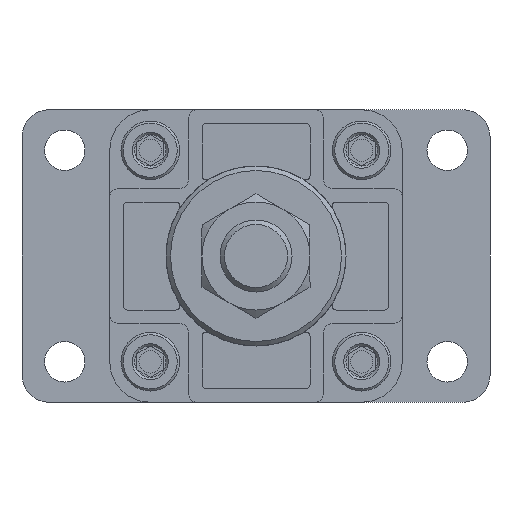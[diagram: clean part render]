
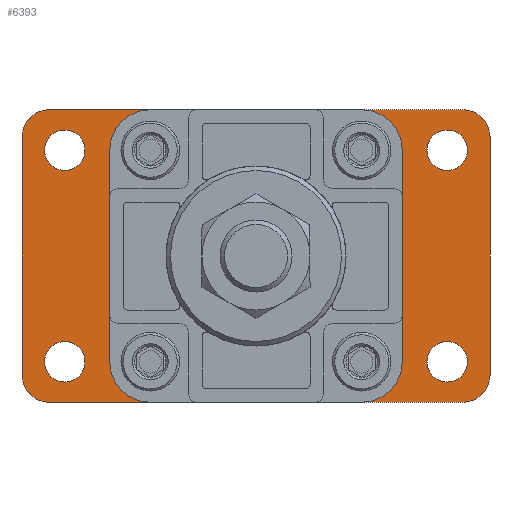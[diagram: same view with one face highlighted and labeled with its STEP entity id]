
A CAD part, front view. The second image highlights one B-rep face of the part: STEP entity #6393.
In plain terms, the highlighted planar face has unit normal (0, -1, 0) as drawn and (0, 1, 0) by its records, which use the part's own axes.
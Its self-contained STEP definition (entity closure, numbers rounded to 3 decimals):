
#388=LINE('',#9569,#730);
#392=LINE('',#9578,#734);
#396=LINE('',#9587,#738);
#398=LINE('',#9591,#740);
#730=VECTOR('',#8149,1000.);
#734=VECTOR('',#8155,1000.);
#738=VECTOR('',#8161,1000.);
#740=VECTOR('',#8165,1000.);
#1928=ORIENTED_EDGE('',*,*,#2713,.F.);
#1929=ORIENTED_EDGE('',*,*,#2714,.T.);
#1930=ORIENTED_EDGE('',*,*,#2715,.T.);
#1931=ORIENTED_EDGE('',*,*,#2716,.T.);
#1932=ORIENTED_EDGE('',*,*,#2717,.T.);
#1933=ORIENTED_EDGE('',*,*,#2718,.F.);
#1934=ORIENTED_EDGE('',*,*,#2719,.F.);
#1935=ORIENTED_EDGE('',*,*,#2720,.F.);
#1936=ORIENTED_EDGE('',*,*,#2721,.F.);
#1937=ORIENTED_EDGE('',*,*,#2686,.F.);
#1938=ORIENTED_EDGE('',*,*,#2722,.T.);
#1939=ORIENTED_EDGE('',*,*,#2696,.F.);
#1940=ORIENTED_EDGE('',*,*,#2723,.T.);
#1941=ORIENTED_EDGE('',*,*,#2694,.F.);
#1942=ORIENTED_EDGE('',*,*,#2724,.T.);
#1943=ORIENTED_EDGE('',*,*,#2690,.F.);
#1944=ORIENTED_EDGE('',*,*,#2725,.T.);
#2686=EDGE_CURVE('',#3177,#3178,#388,.T.);
#2690=EDGE_CURVE('',#3181,#3182,#392,.T.);
#2694=EDGE_CURVE('',#3185,#3186,#396,.T.);
#2696=EDGE_CURVE('',#3187,#3188,#398,.T.);
#2713=EDGE_CURVE('',#3200,#3200,#3497,.F.);
#2714=EDGE_CURVE('',#3201,#3201,#3498,.T.);
#2715=EDGE_CURVE('',#3202,#3202,#3499,.T.);
#2716=EDGE_CURVE('',#3203,#3203,#3500,.T.);
#2717=EDGE_CURVE('',#3204,#3204,#3501,.T.);
#2718=EDGE_CURVE('',#3205,#3205,#3502,.F.);
#2719=EDGE_CURVE('',#3206,#3206,#3503,.F.);
#2720=EDGE_CURVE('',#3207,#3207,#3504,.F.);
#2721=EDGE_CURVE('',#3208,#3208,#3505,.F.);
#2722=EDGE_CURVE('',#3177,#3188,#3506,.F.);
#2723=EDGE_CURVE('',#3187,#3186,#3507,.F.);
#2724=EDGE_CURVE('',#3185,#3182,#3508,.F.);
#2725=EDGE_CURVE('',#3181,#3178,#3509,.F.);
#3177=VERTEX_POINT('',#9568);
#3178=VERTEX_POINT('',#9570);
#3181=VERTEX_POINT('',#9577);
#3182=VERTEX_POINT('',#9579);
#3185=VERTEX_POINT('',#9586);
#3186=VERTEX_POINT('',#9588);
#3187=VERTEX_POINT('',#9592);
#3188=VERTEX_POINT('',#9593);
#3200=VERTEX_POINT('',#9624);
#3201=VERTEX_POINT('',#9626);
#3202=VERTEX_POINT('',#9628);
#3203=VERTEX_POINT('',#9630);
#3204=VERTEX_POINT('',#9632);
#3205=VERTEX_POINT('',#9634);
#3206=VERTEX_POINT('',#9636);
#3207=VERTEX_POINT('',#9638);
#3208=VERTEX_POINT('',#9640);
#3497=CIRCLE('',#6921,21.);
#3498=CIRCLE('',#6922,3.5);
#3499=CIRCLE('',#6923,3.5);
#3500=CIRCLE('',#6924,3.5);
#3501=CIRCLE('',#6925,3.5);
#3502=CIRCLE('',#6926,4.5);
#3503=CIRCLE('',#6927,4.5);
#3504=CIRCLE('',#6928,4.5);
#3505=CIRCLE('',#6929,4.5);
#3506=CIRCLE('',#6930,6.);
#3507=CIRCLE('',#6931,6.);
#3508=CIRCLE('',#6932,6.);
#3509=CIRCLE('',#6933,6.);
#3828=EDGE_LOOP('',(#1928));
#3829=EDGE_LOOP('',(#1929));
#3830=EDGE_LOOP('',(#1930));
#3831=EDGE_LOOP('',(#1931));
#3832=EDGE_LOOP('',(#1932));
#3833=EDGE_LOOP('',(#1933));
#3834=EDGE_LOOP('',(#1934));
#3835=EDGE_LOOP('',(#1935));
#3836=EDGE_LOOP('',(#1936));
#3837=EDGE_LOOP('',(#1937,#1938,#1939,#1940,#1941,#1942,#1943,#1944));
#4234=FACE_BOUND('',#3828,.T.);
#4235=FACE_BOUND('',#3829,.T.);
#4236=FACE_BOUND('',#3830,.T.);
#4237=FACE_BOUND('',#3831,.T.);
#4238=FACE_BOUND('',#3832,.T.);
#4239=FACE_BOUND('',#3833,.T.);
#4240=FACE_BOUND('',#3834,.T.);
#4241=FACE_BOUND('',#3835,.T.);
#4242=FACE_BOUND('',#3836,.T.);
#4243=FACE_BOUND('',#3837,.T.);
#4472=PLANE('',#6920);
#6393=ADVANCED_FACE('',(#4234,#4235,#4236,#4237,#4238,#4239,#4240,#4241,
#4242,#4243),#4472,.F.);
#6920=AXIS2_PLACEMENT_3D('',#9622,#8197,#8198);
#6921=AXIS2_PLACEMENT_3D('',#9623,#8199,#8200);
#6922=AXIS2_PLACEMENT_3D('',#9625,#8201,#8202);
#6923=AXIS2_PLACEMENT_3D('',#9627,#8203,#8204);
#6924=AXIS2_PLACEMENT_3D('',#9629,#8205,#8206);
#6925=AXIS2_PLACEMENT_3D('',#9631,#8207,#8208);
#6926=AXIS2_PLACEMENT_3D('',#9633,#8209,#8210);
#6927=AXIS2_PLACEMENT_3D('',#9635,#8211,#8212);
#6928=AXIS2_PLACEMENT_3D('',#9637,#8213,#8214);
#6929=AXIS2_PLACEMENT_3D('',#9639,#8215,#8216);
#6930=AXIS2_PLACEMENT_3D('',#9641,#8217,#8218);
#6931=AXIS2_PLACEMENT_3D('',#9642,#8219,#8220);
#6932=AXIS2_PLACEMENT_3D('',#9643,#8221,#8222);
#6933=AXIS2_PLACEMENT_3D('',#9644,#8223,#8224);
#8149=DIRECTION('',(0.,0.,-1.));
#8155=DIRECTION('',(1.,0.,0.));
#8161=DIRECTION('',(0.,0.,1.));
#8165=DIRECTION('',(-1.,0.,0.));
#8197=DIRECTION('',(0.,-1.,0.));
#8198=DIRECTION('',(0.,0.,-1.));
#8199=DIRECTION('',(0.,-1.,0.));
#8200=DIRECTION('',(0.,0.,-1.));
#8201=DIRECTION('',(0.,-1.,0.));
#8202=DIRECTION('',(0.,0.,-1.));
#8203=DIRECTION('',(0.,-1.,0.));
#8204=DIRECTION('',(0.,0.,-1.));
#8205=DIRECTION('',(0.,-1.,0.));
#8206=DIRECTION('',(0.,0.,-1.));
#8207=DIRECTION('',(0.,-1.,0.));
#8208=DIRECTION('',(0.,0.,-1.));
#8209=DIRECTION('',(0.,-1.,0.));
#8210=DIRECTION('',(0.,0.,-1.));
#8211=DIRECTION('',(0.,-1.,0.));
#8212=DIRECTION('',(0.,0.,-1.));
#8213=DIRECTION('',(0.,-1.,0.));
#8214=DIRECTION('',(0.,0.,-1.));
#8215=DIRECTION('',(0.,-1.,0.));
#8216=DIRECTION('',(0.,0.,-1.));
#8217=DIRECTION('',(0.,-1.,0.));
#8218=DIRECTION('',(0.,0.,-1.));
#8219=DIRECTION('',(0.,-1.,0.));
#8220=DIRECTION('',(0.,0.,-1.));
#8221=DIRECTION('',(0.,-1.,0.));
#8222=DIRECTION('',(0.,0.,-1.));
#8223=DIRECTION('',(0.,-1.,0.));
#8224=DIRECTION('',(0.,0.,-1.));
#9568=CARTESIAN_POINT('',(-52.,0.,26.5));
#9569=CARTESIAN_POINT('',(-52.,0.,28.));
#9570=CARTESIAN_POINT('',(-52.,0.,-26.5));
#9577=CARTESIAN_POINT('',(-46.,0.,-32.5));
#9578=CARTESIAN_POINT('',(-43.,0.,-32.5));
#9579=CARTESIAN_POINT('',(46.,0.,-32.5));
#9586=CARTESIAN_POINT('',(52.,0.,-26.5));
#9587=CARTESIAN_POINT('',(52.,0.,-28.));
#9588=CARTESIAN_POINT('',(52.,0.,26.5));
#9591=CARTESIAN_POINT('',(43.,0.,32.5));
#9592=CARTESIAN_POINT('',(46.,0.,32.5));
#9593=CARTESIAN_POINT('',(-46.,0.,32.5));
#9622=CARTESIAN_POINT('',(0.,0.,0.));
#9623=CARTESIAN_POINT('',(0.,0.,0.));
#9624=CARTESIAN_POINT('',(0.,0.,-21.));
#9625=CARTESIAN_POINT('',(-23.5,0.,-23.5));
#9626=CARTESIAN_POINT('',(-23.5,0.,-27.));
#9627=CARTESIAN_POINT('',(23.5,0.,-23.5));
#9628=CARTESIAN_POINT('',(23.5,0.,-27.));
#9629=CARTESIAN_POINT('',(23.5,0.,23.5));
#9630=CARTESIAN_POINT('',(23.5,0.,20.));
#9631=CARTESIAN_POINT('',(-23.5,0.,23.5));
#9632=CARTESIAN_POINT('',(-23.5,0.,20.));
#9633=CARTESIAN_POINT('',(42.5,0.,-23.5));
#9634=CARTESIAN_POINT('',(42.5,0.,-28.));
#9635=CARTESIAN_POINT('',(-42.5,0.,-23.5));
#9636=CARTESIAN_POINT('',(-42.5,0.,-28.));
#9637=CARTESIAN_POINT('',(-42.5,0.,23.5));
#9638=CARTESIAN_POINT('',(-42.5,0.,19.));
#9639=CARTESIAN_POINT('',(42.5,0.,23.5));
#9640=CARTESIAN_POINT('',(42.5,0.,19.));
#9641=CARTESIAN_POINT('',(-46.,0.,26.5));
#9642=CARTESIAN_POINT('',(46.,0.,26.5));
#9643=CARTESIAN_POINT('',(46.,0.,-26.5));
#9644=CARTESIAN_POINT('',(-46.,0.,-26.5));
